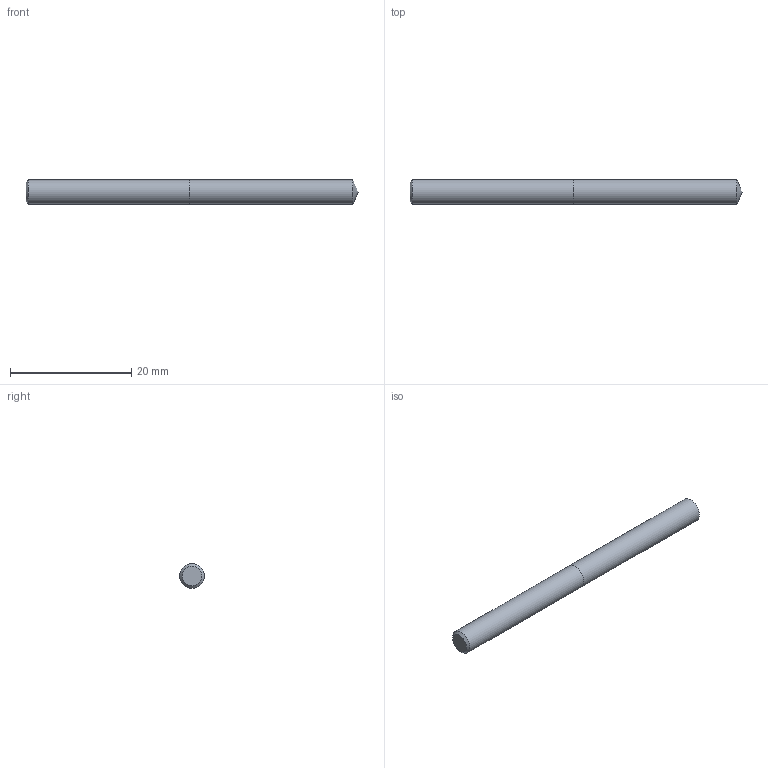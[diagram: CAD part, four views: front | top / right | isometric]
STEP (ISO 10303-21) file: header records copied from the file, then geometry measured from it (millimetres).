
FILE_DESCRIPTION (( 'STEP AP214' ), '1' );
FILE_NAME ('03-2363.STEP', '2022-06-03T06:45:31', ( 'USER' ), ( '' ), 'SwSTEP 2.0', 'SolidWorks 2018', '' );
FILE_SCHEMA (( 'AUTOMOTIVE_DESIGN' ));
Length unit declared in the file: inch
Products named in the file (1): 03-2363
Bounding box: 54.81 x 4.04 x 4.04 mm (x, y, z)
Volume: 694 mm3; surface area: 733.9 mm2
Topology: 2 solids, 2 shells, 7 faces, 11 edges, 7 vertices
Faces by surface type: plane 3, cylinder 2, cone 2
Full cylindrical faces by diameter (mm): 4.039 x2
Entity records: 214 total; most frequent: DIRECTION 26, CARTESIAN_POINT 18, AXIS2_PLACEMENT_3D 13, ORIENTED_EDGE 10, EDGE_LOOP 10, FACE_OUTER_BOUND 9, DIMENSIONAL_EXPONENTS 7, UNCERTAINTY_MEASURE_WITH_UNIT 7
